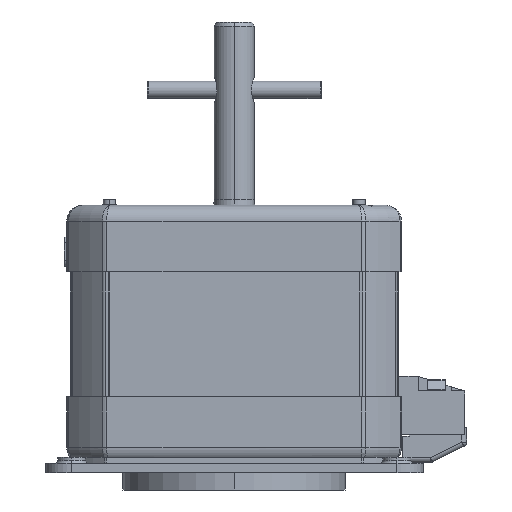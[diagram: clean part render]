
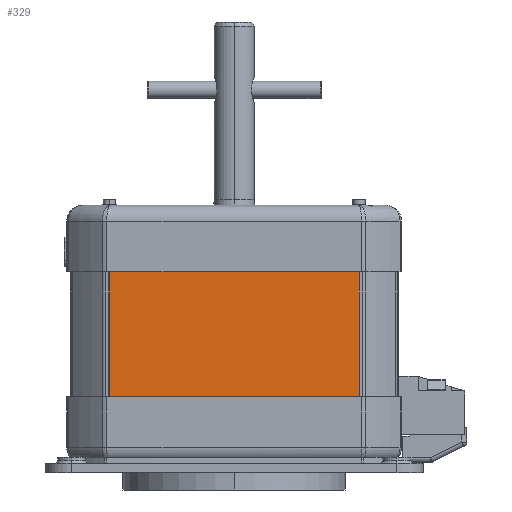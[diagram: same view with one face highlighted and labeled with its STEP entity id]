
A CAD part, left-side view. The second image highlights one B-rep face of the part: STEP entity #329.
In plain terms, the highlighted planar face has unit normal (-1, 0, 0).
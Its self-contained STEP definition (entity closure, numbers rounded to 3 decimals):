
#329 = ADVANCED_FACE ( 'NONE', ( #12154 ), #38598, .F. ) ;
#882 = CARTESIAN_POINT ( 'NONE',  ( -28.543, 24.564, -16.676 ) ) ;
#2268 = EDGE_LOOP ( 'NONE', ( #13643, #35134, #24364, #42110 ) ) ;
#2960 = EDGE_CURVE ( 'NONE', #10074, #3993, #32151, .T. ) ;
#3823 = VECTOR ( 'NONE', #27883, 1000. ) ;
#3993 = VERTEX_POINT ( 'NONE', #25603 ) ;
#7568 = CARTESIAN_POINT ( 'NONE',  ( -28.543, -18.436, -16.676 ) ) ;
#8093 = AXIS2_PLACEMENT_3D ( 'NONE', #28118, #21645, #22071 ) ;
#8975 = CARTESIAN_POINT ( 'NONE',  ( -28.543, -18.436, 4.824 ) ) ;
#10074 = VERTEX_POINT ( 'NONE', #8975 ) ;
#11516 = CARTESIAN_POINT ( 'NONE',  ( -28.543, 24.564, -18.177 ) ) ;
#11756 = VECTOR ( 'NONE', #40269, 1000. ) ;
#12154 = FACE_OUTER_BOUND ( 'NONE', #2268, .T. ) ;
#13643 = ORIENTED_EDGE ( 'NONE', *, *, #21901, .T. ) ;
#14151 = VERTEX_POINT ( 'NONE', #882 ) ;
#14887 = CARTESIAN_POINT ( 'NONE',  ( -28.543, -18.436, -18.177 ) ) ;
#17863 = DIRECTION ( 'NONE',  ( 0., 1., 0. ) ) ;
#19256 = EDGE_CURVE ( 'NONE', #14151, #35571, #30347, .T. ) ;
#21645 = DIRECTION ( 'NONE',  ( 1., 0., 0. ) ) ;
#21901 = EDGE_CURVE ( 'NONE', #35571, #10074, #31248, .T. ) ;
#22071 = DIRECTION ( 'NONE',  ( 0., 0., -1. ) ) ;
#24364 = ORIENTED_EDGE ( 'NONE', *, *, #36379, .F. ) ;
#25002 = VECTOR ( 'NONE', #17863, 1000. ) ;
#25603 = CARTESIAN_POINT ( 'NONE',  ( -28.543, 24.564, 4.824 ) ) ;
#25671 = CARTESIAN_POINT ( 'NONE',  ( -28.543, 24.991, 4.824 ) ) ;
#27883 = DIRECTION ( 'NONE',  ( 0., 0., 1. ) ) ;
#28118 = CARTESIAN_POINT ( 'NONE',  ( -28.543, 25.264, 6.324 ) ) ;
#28309 = LINE ( 'NONE', #11516, #3823 ) ;
#30347 = LINE ( 'NONE', #39776, #32541 ) ;
#31248 = LINE ( 'NONE', #14887, #11756 ) ;
#32151 = LINE ( 'NONE', #25671, #25002 ) ;
#32541 = VECTOR ( 'NONE', #39986, 1000. ) ;
#35134 = ORIENTED_EDGE ( 'NONE', *, *, #2960, .T. ) ;
#35571 = VERTEX_POINT ( 'NONE', #7568 ) ;
#36379 = EDGE_CURVE ( 'NONE', #14151, #3993, #28309, .T. ) ;
#38598 = PLANE ( 'NONE',  #8093 ) ;
#39776 = CARTESIAN_POINT ( 'NONE',  ( -28.543, 24.991, -16.676 ) ) ;
#39986 = DIRECTION ( 'NONE',  ( 0., -1., 0. ) ) ;
#40269 = DIRECTION ( 'NONE',  ( 0., 0., 1. ) ) ;
#42110 = ORIENTED_EDGE ( 'NONE', *, *, #19256, .T. ) ;
